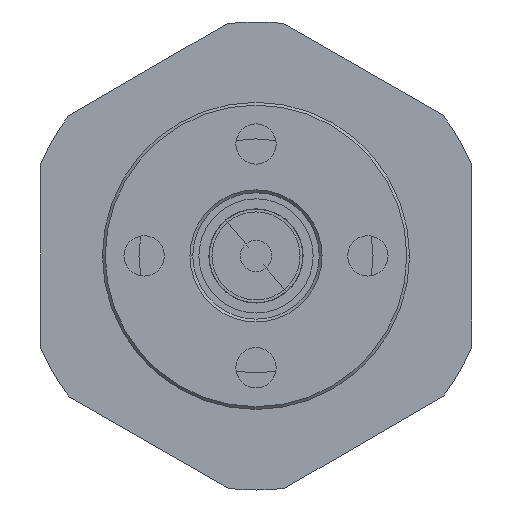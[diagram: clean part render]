
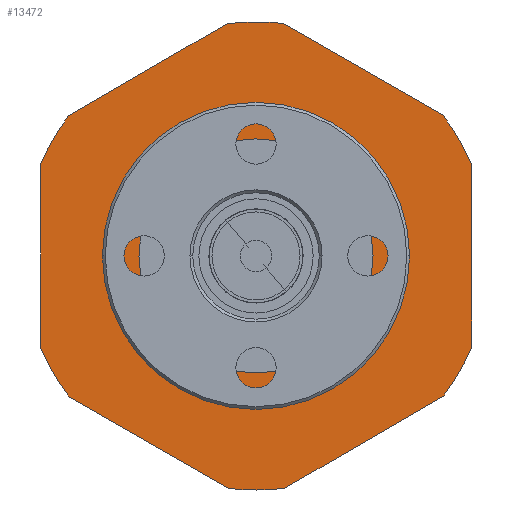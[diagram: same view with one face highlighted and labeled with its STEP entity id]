
A CAD part, front view. The second image highlights one B-rep face of the part: STEP entity #13472.
In plain terms, the highlighted planar face has unit normal (0, -1, 0).
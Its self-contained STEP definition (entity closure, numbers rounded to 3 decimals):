
#41 = CIRCLE ( 'NONE', #11687, 12.5 ) ;
#271 = CARTESIAN_POINT ( 'NONE',  ( 0., 28., 0. ) ) ;
#329 = AXIS2_PLACEMENT_3D ( 'NONE', #4281, #874, #5650 ) ;
#448 = DIRECTION ( 'NONE',  ( -0.866, 0., -0.5 ) ) ;
#536 = DIRECTION ( 'NONE',  ( 0., 0., -1. ) ) ;
#612 = VECTOR ( 'NONE', #448, 1000. ) ;
#624 = FACE_BOUND ( 'NONE', #14583, .T. ) ;
#663 = EDGE_CURVE ( 'NONE', #11403, #5657, #10772, .T. ) ;
#678 = DIRECTION ( 'NONE',  ( 0., 0., -1. ) ) ;
#769 = VERTEX_POINT ( 'NONE', #9190 ) ;
#818 = EDGE_CURVE ( 'NONE', #9649, #4056, #11705, .T. ) ;
#838 = ORIENTED_EDGE ( 'NONE', *, *, #5177, .T. ) ;
#874 = DIRECTION ( 'NONE',  ( 0., 1., 0. ) ) ;
#1355 = EDGE_CURVE ( 'NONE', #12882, #7371, #9227, .T. ) ;
#1562 = AXIS2_PLACEMENT_3D ( 'NONE', #2815, #1682, #536 ) ;
#1682 = DIRECTION ( 'NONE',  ( 0., -1., 0. ) ) ;
#1724 = CARTESIAN_POINT ( 'NONE',  ( -3.015, 28., -24.818 ) ) ;
#1738 = CARTESIAN_POINT ( 'NONE',  ( 0., 28., -12.5 ) ) ;
#1854 = DIRECTION ( 'NONE',  ( 0., -1., 0. ) ) ;
#2133 = AXIS2_PLACEMENT_3D ( 'NONE', #11459, #10163, #12847 ) ;
#2320 = DIRECTION ( 'NONE',  ( 0., 0., -1. ) ) ;
#2393 = CARTESIAN_POINT ( 'NONE',  ( 0., 28., 12.5 ) ) ;
#2597 = DIRECTION ( 'NONE',  ( 0., -1., 0. ) ) ;
#2727 = DIRECTION ( 'NONE',  ( 0., 0., 1. ) ) ;
#2815 = CARTESIAN_POINT ( 'NONE',  ( 0., 28., 0. ) ) ;
#2895 = LINE ( 'NONE', #7840, #9368 ) ;
#3001 = VERTEX_POINT ( 'NONE', #13241 ) ;
#3048 = CIRCLE ( 'NONE', #12383, 25. ) ;
#3155 = CIRCLE ( 'NONE', #1562, 12.5 ) ;
#3316 = EDGE_CURVE ( 'NONE', #3001, #13086, #12737, .T. ) ;
#3380 = DIRECTION ( 'NONE',  ( 0., -1., 0. ) ) ;
#3466 = CARTESIAN_POINT ( 'NONE',  ( 19.985, 28., 15.02 ) ) ;
#3687 = VECTOR ( 'NONE', #7109, 1000. ) ;
#3723 = VECTOR ( 'NONE', #2727, 1000. ) ;
#3805 = ORIENTED_EDGE ( 'NONE', *, *, #11864, .F. ) ;
#3920 = VERTEX_POINT ( 'NONE', #2393 ) ;
#4056 = VERTEX_POINT ( 'NONE', #6830 ) ;
#4061 = CARTESIAN_POINT ( 'NONE',  ( 0., 28., 0. ) ) ;
#4099 = AXIS2_PLACEMENT_3D ( 'NONE', #5979, #16028, #9553 ) ;
#4281 = CARTESIAN_POINT ( 'NONE',  ( -25., 28., 0. ) ) ;
#4303 = CARTESIAN_POINT ( 'NONE',  ( 23., 28., 9.798 ) ) ;
#4324 = AXIS2_PLACEMENT_3D ( 'NONE', #4061, #2597, #11109 ) ;
#4348 = EDGE_CURVE ( 'NONE', #4056, #3001, #3048, .T. ) ;
#4514 = EDGE_CURVE ( 'NONE', #5401, #9649, #11593, .T. ) ;
#4515 = CARTESIAN_POINT ( 'NONE',  ( 0., 28., 0. ) ) ;
#4589 = VECTOR ( 'NONE', #6807, 1000. ) ;
#5177 = EDGE_CURVE ( 'NONE', #6944, #12453, #6422, .T. ) ;
#5401 = VERTEX_POINT ( 'NONE', #12346 ) ;
#5555 = ORIENTED_EDGE ( 'NONE', *, *, #3316, .T. ) ;
#5594 = EDGE_LOOP ( 'NONE', ( #12313, #14923, #9363, #11733, #5555, #13699, #14483, #8357, #14980, #8002, #838, #14255, #6606 ) ) ;
#5650 = DIRECTION ( 'NONE',  ( 0., 0., 1. ) ) ;
#5657 = VERTEX_POINT ( 'NONE', #9417 ) ;
#5979 = CARTESIAN_POINT ( 'NONE',  ( 0., 28., 0. ) ) ;
#6258 = VERTEX_POINT ( 'NONE', #1738 ) ;
#6422 = CIRCLE ( 'NONE', #15501, 25. ) ;
#6606 = ORIENTED_EDGE ( 'NONE', *, *, #663, .T. ) ;
#6807 = DIRECTION ( 'NONE',  ( 0.866, 0., -0.5 ) ) ;
#6830 = CARTESIAN_POINT ( 'NONE',  ( -23., 28., -9.798 ) ) ;
#6839 = ORIENTED_EDGE ( 'NONE', *, *, #9596, .F. ) ;
#6894 = AXIS2_PLACEMENT_3D ( 'NONE', #271, #13912, #7736 ) ;
#6944 = VERTEX_POINT ( 'NONE', #4303 ) ;
#7109 = DIRECTION ( 'NONE',  ( -0.866, 0., 0.5 ) ) ;
#7371 = VERTEX_POINT ( 'NONE', #12632 ) ;
#7736 = DIRECTION ( 'NONE',  ( 0., 0., -1. ) ) ;
#7840 = CARTESIAN_POINT ( 'NONE',  ( 0., 28., -26.558 ) ) ;
#7914 = CARTESIAN_POINT ( 'NONE',  ( -23., 28., 9.798 ) ) ;
#8002 = ORIENTED_EDGE ( 'NONE', *, *, #11211, .T. ) ;
#8125 = AXIS2_PLACEMENT_3D ( 'NONE', #4515, #3380, #2320 ) ;
#8357 = ORIENTED_EDGE ( 'NONE', *, *, #9630, .T. ) ;
#8475 = LINE ( 'NONE', #13517, #3687 ) ;
#8607 = CIRCLE ( 'NONE', #2133, 25. ) ;
#8884 = LINE ( 'NONE', #13843, #3723 ) ;
#9190 = CARTESIAN_POINT ( 'NONE',  ( 23., 28., -9.798 ) ) ;
#9205 = CARTESIAN_POINT ( 'NONE',  ( 3.015, 28., 24.818 ) ) ;
#9227 = CIRCLE ( 'NONE', #4324, 25. ) ;
#9363 = ORIENTED_EDGE ( 'NONE', *, *, #818, .T. ) ;
#9368 = VECTOR ( 'NONE', #13851, 1000. ) ;
#9417 = CARTESIAN_POINT ( 'NONE',  ( -3.015, 28., 24.818 ) ) ;
#9490 = VECTOR ( 'NONE', #678, 1000. ) ;
#9553 = DIRECTION ( 'NONE',  ( 0., 0., -1. ) ) ;
#9596 = EDGE_CURVE ( 'NONE', #3920, #6258, #3155, .T. ) ;
#9630 = EDGE_CURVE ( 'NONE', #7371, #15597, #2895, .T. ) ;
#9649 = VERTEX_POINT ( 'NONE', #7914 ) ;
#10163 = DIRECTION ( 'NONE',  ( 0., -1., 0. ) ) ;
#10285 = DIRECTION ( 'NONE',  ( 0., 0., -1. ) ) ;
#10433 = FACE_OUTER_BOUND ( 'NONE', #5594, .T. ) ;
#10684 = DIRECTION ( 'NONE',  ( 0., 0., -1. ) ) ;
#10733 = CARTESIAN_POINT ( 'NONE',  ( 19.985, 28., -15.02 ) ) ;
#10772 = CIRCLE ( 'NONE', #6894, 25. ) ;
#11109 = DIRECTION ( 'NONE',  ( 0., 0., -1. ) ) ;
#11211 = EDGE_CURVE ( 'NONE', #769, #6944, #8884, .T. ) ;
#11214 = EDGE_CURVE ( 'NONE', #5657, #5401, #15292, .T. ) ;
#11403 = VERTEX_POINT ( 'NONE', #9205 ) ;
#11435 = EDGE_CURVE ( 'NONE', #15597, #769, #15112, .T. ) ;
#11459 = CARTESIAN_POINT ( 'NONE',  ( 0., 28., 0. ) ) ;
#11584 = CARTESIAN_POINT ( 'NONE',  ( 0., 28., 0. ) ) ;
#11593 = CIRCLE ( 'NONE', #4099, 25. ) ;
#11687 = AXIS2_PLACEMENT_3D ( 'NONE', #11584, #12567, #10285 ) ;
#11705 = LINE ( 'NONE', #15524, #9490 ) ;
#11733 = ORIENTED_EDGE ( 'NONE', *, *, #4348, .T. ) ;
#11864 = EDGE_CURVE ( 'NONE', #6258, #3920, #41, .T. ) ;
#11905 = CARTESIAN_POINT ( 'NONE',  ( 0., 28., 0. ) ) ;
#12313 = ORIENTED_EDGE ( 'NONE', *, *, #11214, .T. ) ;
#12346 = CARTESIAN_POINT ( 'NONE',  ( -19.985, 28., 15.02 ) ) ;
#12383 = AXIS2_PLACEMENT_3D ( 'NONE', #11905, #1854, #10684 ) ;
#12453 = VERTEX_POINT ( 'NONE', #3466 ) ;
#12489 = EDGE_CURVE ( 'NONE', #12453, #11403, #8475, .T. ) ;
#12567 = DIRECTION ( 'NONE',  ( 0., -1., 0. ) ) ;
#12632 = CARTESIAN_POINT ( 'NONE',  ( 3.015, 28., -24.818 ) ) ;
#12737 = LINE ( 'NONE', #12818, #4589 ) ;
#12818 = CARTESIAN_POINT ( 'NONE',  ( -23., 28., -13.279 ) ) ;
#12847 = DIRECTION ( 'NONE',  ( 0., 0., -1. ) ) ;
#12882 = VERTEX_POINT ( 'NONE', #15925 ) ;
#13086 = VERTEX_POINT ( 'NONE', #1724 ) ;
#13241 = CARTESIAN_POINT ( 'NONE',  ( -19.985, 28., -15.02 ) ) ;
#13249 = DIRECTION ( 'NONE',  ( 0., 0., -1. ) ) ;
#13415 = DIRECTION ( 'NONE',  ( 0., -1., 0. ) ) ;
#13472 = ADVANCED_FACE ( 'NONE', ( #624, #10433 ), #15385, .F. ) ;
#13517 = CARTESIAN_POINT ( 'NONE',  ( 23., 28., 13.279 ) ) ;
#13699 = ORIENTED_EDGE ( 'NONE', *, *, #14741, .T. ) ;
#13843 = CARTESIAN_POINT ( 'NONE',  ( 23., 28., -13.279 ) ) ;
#13851 = DIRECTION ( 'NONE',  ( 0.866, 0., 0.5 ) ) ;
#13912 = DIRECTION ( 'NONE',  ( 0., -1., 0. ) ) ;
#14162 = CARTESIAN_POINT ( 'NONE',  ( 0., 28., 26.558 ) ) ;
#14255 = ORIENTED_EDGE ( 'NONE', *, *, #12489, .T. ) ;
#14387 = CARTESIAN_POINT ( 'NONE',  ( 0., 28., 0. ) ) ;
#14483 = ORIENTED_EDGE ( 'NONE', *, *, #1355, .T. ) ;
#14583 = EDGE_LOOP ( 'NONE', ( #3805, #6839 ) ) ;
#14741 = EDGE_CURVE ( 'NONE', #13086, #12882, #8607, .T. ) ;
#14923 = ORIENTED_EDGE ( 'NONE', *, *, #4514, .T. ) ;
#14980 = ORIENTED_EDGE ( 'NONE', *, *, #11435, .T. ) ;
#15112 = CIRCLE ( 'NONE', #8125, 25. ) ;
#15292 = LINE ( 'NONE', #14162, #612 ) ;
#15385 = PLANE ( 'NONE',  #329 ) ;
#15501 = AXIS2_PLACEMENT_3D ( 'NONE', #14387, #13415, #13249 ) ;
#15524 = CARTESIAN_POINT ( 'NONE',  ( -23., 28., 13.279 ) ) ;
#15597 = VERTEX_POINT ( 'NONE', #10733 ) ;
#15925 = CARTESIAN_POINT ( 'NONE',  ( 0., 28., -25. ) ) ;
#16028 = DIRECTION ( 'NONE',  ( 0., -1., 0. ) ) ;
